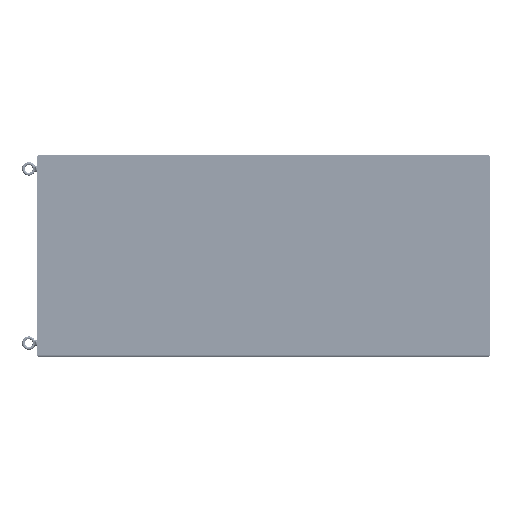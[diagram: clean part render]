
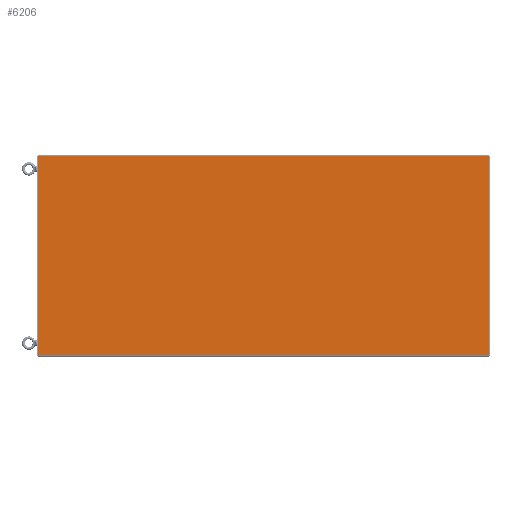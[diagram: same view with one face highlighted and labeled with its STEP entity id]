
A CAD part, front view. The second image highlights one B-rep face of the part: STEP entity #6206.
In plain terms, the highlighted planar face has unit normal (0, -1, 0) as drawn and (0, 0, 1) by its records, which use the part's own axes.
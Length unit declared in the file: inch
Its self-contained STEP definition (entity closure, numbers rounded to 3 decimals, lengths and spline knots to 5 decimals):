
#2127=DIRECTION('',(1.,0.,0.));
#2128=VECTOR('',#2127,70.658);
#2129=CARTESIAN_POINT('',(0.,0.2465,0.052));
#2130=LINE('',#2129,#2128);
#2157=CARTESIAN_POINT('',(0.015,31.377,0.052));
#2158=DIRECTION('',(0.,0.,1.));
#2159=DIRECTION('',(0.,1.,0.));
#2160=AXIS2_PLACEMENT_3D('',#2157,#2158,#2159);
#2165=DIRECTION('',(-1.,0.,0.));
#2166=VECTOR('',#2165,70.628);
#2167=CARTESIAN_POINT('',(70.643,31.392,0.052));
#2168=LINE('',#2167,#2166);
#2172=CARTESIAN_POINT('',(70.643,31.377,0.052));
#2173=DIRECTION('',(0.,0.,1.));
#2174=DIRECTION('',(1.,0.,0.));
#2175=AXIS2_PLACEMENT_3D('',#2172,#2173,#2174);
#2180=DIRECTION('',(0.,1.,0.));
#2181=VECTOR('',#2180,31.1305);
#2182=CARTESIAN_POINT('',(70.658,0.2465,0.052));
#2183=LINE('',#2182,#2181);
#2187=DIRECTION('',(0.,-1.,0.));
#2188=VECTOR('',#2187,31.1305);
#2189=CARTESIAN_POINT('',(0.,31.377,0.052));
#2190=LINE('',#2189,#2188);
#4295=CARTESIAN_POINT('',(0.,0.2465,0.052));
#4296=CARTESIAN_POINT('',(70.658,0.2465,0.052));
#4297=VERTEX_POINT('',#4295);
#4298=VERTEX_POINT('',#4296);
#4311=CARTESIAN_POINT('',(0.015,31.392,0.052));
#4312=CARTESIAN_POINT('',(0.,31.377,0.052));
#4313=VERTEX_POINT('',#4311);
#4314=VERTEX_POINT('',#4312);
#4319=CARTESIAN_POINT('',(70.658,31.377,0.052));
#4320=CARTESIAN_POINT('',(70.643,31.392,0.052));
#4321=VERTEX_POINT('',#4319);
#4322=VERTEX_POINT('',#4320);
#6188=CARTESIAN_POINT('',(70.658,0.,0.052));
#6189=DIRECTION('',(0.,0.,1.));
#6190=DIRECTION('',(1.,0.,0.));
#6191=AXIS2_PLACEMENT_3D('',#6188,#6189,#6190);
#6192=PLANE('',#6191);
#6194=ORIENTED_EDGE('',*,*,#6193,.F.);
#6196=ORIENTED_EDGE('',*,*,#6195,.F.);
#6198=ORIENTED_EDGE('',*,*,#6197,.F.);
#6200=ORIENTED_EDGE('',*,*,#6199,.F.);
#6201=ORIENTED_EDGE('',*,*,#6179,.F.);
#6203=ORIENTED_EDGE('',*,*,#6202,.F.);
#6204=EDGE_LOOP('',(#6194,#6196,#6198,#6200,#6201,#6203));
#6205=FACE_OUTER_BOUND('',#6204,.F.);
#2161=CIRCLE('',#2160,0.015);
#2176=CIRCLE('',#2175,0.015);
#6179=EDGE_CURVE('',#4297,#4298,#2130,.T.);
#6193=EDGE_CURVE('',#4313,#4314,#2161,.T.);
#6195=EDGE_CURVE('',#4322,#4313,#2168,.T.);
#6197=EDGE_CURVE('',#4321,#4322,#2176,.T.);
#6199=EDGE_CURVE('',#4298,#4321,#2183,.T.);
#6202=EDGE_CURVE('',#4314,#4297,#2190,.T.);
#6206=ADVANCED_FACE('',(#6205),#6192,.T.);
